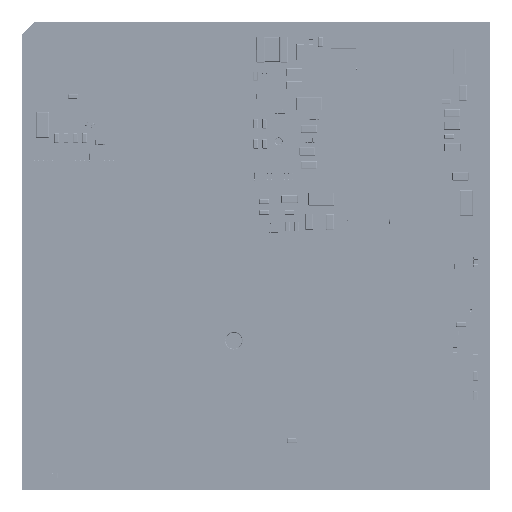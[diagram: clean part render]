
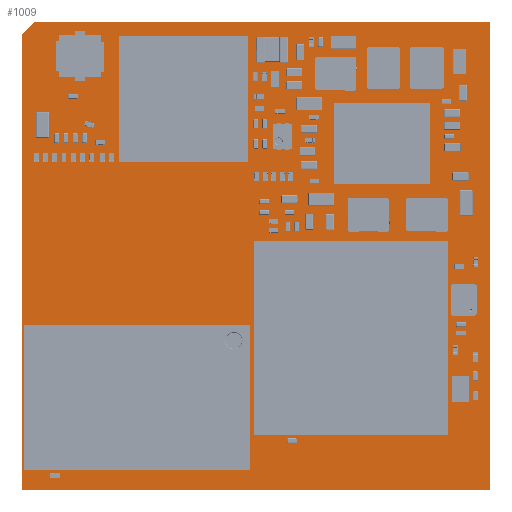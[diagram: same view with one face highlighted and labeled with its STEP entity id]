
A CAD part, top view. The second image highlights one B-rep face of the part: STEP entity #1009.
In plain terms, the highlighted planar face has unit normal (0, 0, 1).
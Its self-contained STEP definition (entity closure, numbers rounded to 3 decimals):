
#848 = VERTEX_POINT('',#849);
#849 = CARTESIAN_POINT('',(0.,0.,1.578));
#855 = EDGE_CURVE('',#848,#856,#858,.T.);
#856 = VERTEX_POINT('',#857);
#857 = CARTESIAN_POINT('',(0.,28.25,1.578));
#858 = LINE('',#859,#860);
#859 = CARTESIAN_POINT('',(0.,0.,1.578));
#860 = VECTOR('',#861,1.);
#861 = DIRECTION('',(0.,1.,0.));
#886 = EDGE_CURVE('',#856,#887,#889,.T.);
#887 = VERTEX_POINT('',#888);
#888 = CARTESIAN_POINT('',(0.75,29.,1.578));
#889 = LINE('',#890,#891);
#890 = CARTESIAN_POINT('',(0.,28.25,1.578));
#891 = VECTOR('',#892,1.);
#892 = DIRECTION('',(0.707,0.707,0.));
#917 = EDGE_CURVE('',#887,#918,#920,.T.);
#918 = VERTEX_POINT('',#919);
#919 = CARTESIAN_POINT('',(29.,29.,1.578));
#920 = LINE('',#921,#922);
#921 = CARTESIAN_POINT('',(0.75,29.,1.578));
#922 = VECTOR('',#923,1.);
#923 = DIRECTION('',(1.,0.,0.));
#948 = EDGE_CURVE('',#918,#949,#951,.T.);
#949 = VERTEX_POINT('',#950);
#950 = CARTESIAN_POINT('',(29.,0.,1.578));
#951 = LINE('',#952,#953);
#952 = CARTESIAN_POINT('',(29.,29.,1.578));
#953 = VECTOR('',#954,1.);
#954 = DIRECTION('',(0.,-1.,0.));
#979 = EDGE_CURVE('',#949,#848,#980,.T.);
#980 = LINE('',#981,#982);
#981 = CARTESIAN_POINT('',(29.,0.,1.578));
#982 = VECTOR('',#983,1.);
#983 = DIRECTION('',(-1.,0.,0.));
#1009 = ADVANCED_FACE('',(#1010),#1017,.T.);
#1010 = FACE_BOUND('',#1011,.F.);
#1011 = EDGE_LOOP('',(#1012,#1013,#1014,#1015,#1016));
#1012 = ORIENTED_EDGE('',*,*,#855,.T.);
#1013 = ORIENTED_EDGE('',*,*,#886,.T.);
#1014 = ORIENTED_EDGE('',*,*,#917,.T.);
#1015 = ORIENTED_EDGE('',*,*,#948,.T.);
#1016 = ORIENTED_EDGE('',*,*,#979,.T.);
#1017 = PLANE('',#1018);
#1018 = AXIS2_PLACEMENT_3D('',#1019,#1020,#1021);
#1019 = CARTESIAN_POINT('',(0.,0.,1.578));
#1020 = DIRECTION('',(0.,0.,1.));
#1021 = DIRECTION('',(1.,0.,0.));
